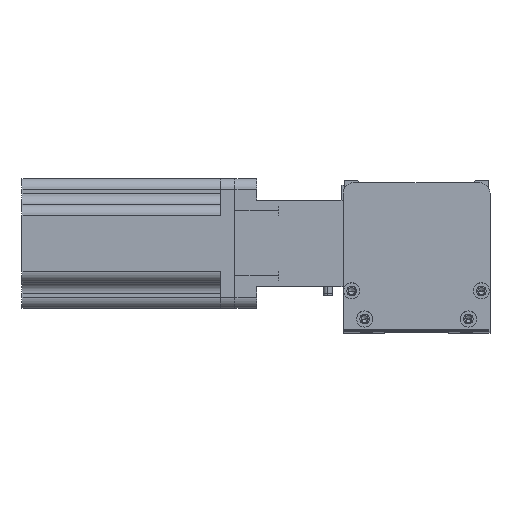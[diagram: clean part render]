
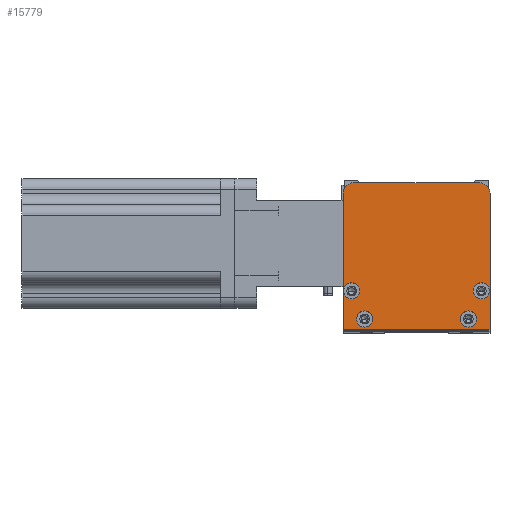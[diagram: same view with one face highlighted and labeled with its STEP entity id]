
A CAD part, top view. The second image highlights one B-rep face of the part: STEP entity #15779.
In plain terms, the highlighted planar face has unit normal (0, 0, 1) as drawn and (0, 0, -1) by its records, which use the part's own axes.
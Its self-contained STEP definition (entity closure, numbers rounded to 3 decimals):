
#298 = VERTEX_POINT ( 'NONE', #5604 ) ;
#424 = EDGE_CURVE ( 'NONE', #23281, #2418, #4229, .T. ) ;
#613 = DIRECTION ( 'NONE',  ( 1., 0., 0. ) ) ;
#666 = ORIENTED_EDGE ( 'NONE', *, *, #17844, .F. ) ;
#1203 = CARTESIAN_POINT ( 'NONE',  ( 58., 5., 0. ) ) ;
#1509 = DIRECTION ( 'NONE',  ( 0., 0., -1. ) ) ;
#1615 = VERTEX_POINT ( 'NONE', #13486 ) ;
#1865 = CARTESIAN_POINT ( 'NONE',  ( 68., 0., 0. ) ) ;
#1935 = CARTESIAN_POINT ( 'NONE',  ( 0., 0., 0. ) ) ;
#2074 = CARTESIAN_POINT ( 'NONE',  ( 67.75, 18., 0. ) ) ;
#2297 = ORIENTED_EDGE ( 'NONE', *, *, #21039, .F. ) ;
#2298 = AXIS2_PLACEMENT_3D ( 'NONE', #21314, #8424, #23518 ) ;
#2418 = VERTEX_POINT ( 'NONE', #18274 ) ;
#2575 = AXIS2_PLACEMENT_3D ( 'NONE', #19404, #6521, #21570 ) ;
#2630 = VECTOR ( 'NONE', #613, 1000. ) ;
#3285 = FACE_BOUND ( 'NONE', #7946, .T. ) ;
#3315 = LINE ( 'NONE', #24185, #2630 ) ;
#3330 = DIRECTION ( 'NONE',  ( -1., 0., 0. ) ) ;
#3374 = VERTEX_POINT ( 'NONE', #2074 ) ;
#3432 = ORIENTED_EDGE ( 'NONE', *, *, #20306, .T. ) ;
#3448 = VECTOR ( 'NONE', #4069, 1000. ) ;
#3655 = CARTESIAN_POINT ( 'NONE',  ( 58., 5., 0. ) ) ;
#3841 = CARTESIAN_POINT ( 'NONE',  ( 68., 0., 0. ) ) ;
#4069 = DIRECTION ( 'NONE',  ( 0., -1., 0. ) ) ;
#4108 = LINE ( 'NONE', #1935, #3448 ) ;
#4157 = DIRECTION ( 'NONE',  ( -1., 0., 0. ) ) ;
#4229 = CIRCLE ( 'NONE', #17617, 3.75 ) ;
#4347 = ORIENTED_EDGE ( 'NONE', *, *, #10404, .F. ) ;
#4366 = VERTEX_POINT ( 'NONE', #8454 ) ;
#4398 = VERTEX_POINT ( 'NONE', #12845 ) ;
#4742 = DIRECTION ( 'NONE',  ( 0., 0., -1. ) ) ;
#4968 = EDGE_CURVE ( 'NONE', #298, #3374, #25805, .T. ) ;
#5204 = CARTESIAN_POINT ( 'NONE',  ( 6.25, 5., 0. ) ) ;
#5533 = ORIENTED_EDGE ( 'NONE', *, *, #18625, .F. ) ;
#5604 = CARTESIAN_POINT ( 'NONE',  ( 60.25, 18., 0. ) ) ;
#5808 = DIRECTION ( 'NONE',  ( -1., 0., 0. ) ) ;
#5854 = CARTESIAN_POINT ( 'NONE',  ( 61.75, 5., 0. ) ) ;
#6292 = CARTESIAN_POINT ( 'NONE',  ( 68., 68., 0. ) ) ;
#6521 = DIRECTION ( 'NONE',  ( 0., 0., -1. ) ) ;
#6577 = CARTESIAN_POINT ( 'NONE',  ( 0., 63., 0. ) ) ;
#6839 = EDGE_CURVE ( 'NONE', #1615, #4366, #10239, .T. ) ;
#6945 = DIRECTION ( 'NONE',  ( 1., 0., 0. ) ) ;
#7417 = AXIS2_PLACEMENT_3D ( 'NONE', #3655, #18692, #5808 ) ;
#7604 = EDGE_CURVE ( 'NONE', #3374, #298, #15531, .T. ) ;
#7748 = CARTESIAN_POINT ( 'NONE',  ( 64., 18., 0. ) ) ;
#7898 = ORIENTED_EDGE ( 'NONE', *, *, #4968, .F. ) ;
#7946 = EDGE_LOOP ( 'NONE', ( #2297, #4347 ) ) ;
#8147 = VERTEX_POINT ( 'NONE', #1865 ) ;
#8326 = CARTESIAN_POINT ( 'NONE',  ( 68., 63., 0. ) ) ;
#8389 = ORIENTED_EDGE ( 'NONE', *, *, #424, .F. ) ;
#8392 = ORIENTED_EDGE ( 'NONE', *, *, #7604, .F. ) ;
#8403 = AXIS2_PLACEMENT_3D ( 'NONE', #14278, #1509, #16428 ) ;
#8424 = DIRECTION ( 'NONE',  ( 0., 0., -1. ) ) ;
#8454 = CARTESIAN_POINT ( 'NONE',  ( 5., 68., 0. ) ) ;
#8695 = CIRCLE ( 'NONE', #2575, 5. ) ;
#8711 = CIRCLE ( 'NONE', #8403, 3.75 ) ;
#8784 = VECTOR ( 'NONE', #21040, 1000. ) ;
#8940 = FACE_BOUND ( 'NONE', #12948, .T. ) ;
#9298 = ORIENTED_EDGE ( 'NONE', *, *, #22085, .F. ) ;
#9366 = VERTEX_POINT ( 'NONE', #9374 ) ;
#9374 = CARTESIAN_POINT ( 'NONE',  ( 7.75, 18., 0. ) ) ;
#9900 = DIRECTION ( 'NONE',  ( -1., 0., 0. ) ) ;
#10049 = EDGE_LOOP ( 'NONE', ( #7898, #8392 ) ) ;
#10098 = EDGE_CURVE ( 'NONE', #23454, #24091, #13387, .T. ) ;
#10239 = LINE ( 'NONE', #6292, #22357 ) ;
#10307 = EDGE_CURVE ( 'NONE', #15660, #4366, #8695, .T. ) ;
#10366 = ORIENTED_EDGE ( 'NONE', *, *, #14053, .F. ) ;
#10404 = EDGE_CURVE ( 'NONE', #9366, #4398, #16731, .T. ) ;
#10416 = CARTESIAN_POINT ( 'NONE',  ( 54.25, 5., 0. ) ) ;
#10940 = EDGE_LOOP ( 'NONE', ( #23523, #25049, #12708, #3432, #5533, #9298 ) ) ;
#11114 = DIRECTION ( 'NONE',  ( 0., 0., -1. ) ) ;
#11684 = DIRECTION ( 'NONE',  ( 0., 0., -1. ) ) ;
#11850 = ORIENTED_EDGE ( 'NONE', *, *, #10098, .F. ) ;
#11871 = CIRCLE ( 'NONE', #12816, 3.75 ) ;
#11953 = EDGE_LOOP ( 'NONE', ( #666, #11850 ) ) ;
#12190 = DIRECTION ( 'NONE',  ( -1., 0., 0. ) ) ;
#12466 = DIRECTION ( 'NONE',  ( 0., 0., -1. ) ) ;
#12708 = ORIENTED_EDGE ( 'NONE', *, *, #6839, .F. ) ;
#12816 = AXIS2_PLACEMENT_3D ( 'NONE', #1203, #16123, #3330 ) ;
#12845 = CARTESIAN_POINT ( 'NONE',  ( 0.25, 18., 0. ) ) ;
#12948 = EDGE_LOOP ( 'NONE', ( #8389, #10366 ) ) ;
#13387 = CIRCLE ( 'NONE', #7417, 3.75 ) ;
#13486 = CARTESIAN_POINT ( 'NONE',  ( 63., 68., 0. ) ) ;
#13972 = FACE_OUTER_BOUND ( 'NONE', #10940, .T. ) ;
#14053 = EDGE_CURVE ( 'NONE', #2418, #23281, #8711, .T. ) ;
#14278 = CARTESIAN_POINT ( 'NONE',  ( 10., 5., 0. ) ) ;
#14316 = CARTESIAN_POINT ( 'NONE',  ( 10., 5., 0. ) ) ;
#15531 = CIRCLE ( 'NONE', #17041, 3.75 ) ;
#15660 = VERTEX_POINT ( 'NONE', #6577 ) ;
#15779 = ADVANCED_FACE ( 'NONE', ( #25482, #3285, #8940, #19742, #13972 ), #19750, .F. ) ;
#16123 = DIRECTION ( 'NONE',  ( 0., 0., -1. ) ) ;
#16428 = DIRECTION ( 'NONE',  ( -1., 0., 0. ) ) ;
#16542 = AXIS2_PLACEMENT_3D ( 'NONE', #17555, #19843, #6945 ) ;
#16731 = CIRCLE ( 'NONE', #16921, 3.75 ) ;
#16921 = AXIS2_PLACEMENT_3D ( 'NONE', #17593, #4742, #19783 ) ;
#17041 = AXIS2_PLACEMENT_3D ( 'NONE', #24646, #11684, #26799 ) ;
#17175 = CARTESIAN_POINT ( 'NONE',  ( 0., 0., 0. ) ) ;
#17555 = CARTESIAN_POINT ( 'NONE',  ( 0., 0., 0. ) ) ;
#17593 = CARTESIAN_POINT ( 'NONE',  ( 4., 18., 0. ) ) ;
#17617 = AXIS2_PLACEMENT_3D ( 'NONE', #14316, #12466, #12190 ) ;
#17844 = EDGE_CURVE ( 'NONE', #24091, #23454, #11871, .T. ) ;
#18274 = CARTESIAN_POINT ( 'NONE',  ( 13.75, 5., 0. ) ) ;
#18625 = EDGE_CURVE ( 'NONE', #8147, #22441, #26678, .T. ) ;
#18692 = DIRECTION ( 'NONE',  ( 0., 0., -1. ) ) ;
#19404 = CARTESIAN_POINT ( 'NONE',  ( 5., 63., 0. ) ) ;
#19558 = AXIS2_PLACEMENT_3D ( 'NONE', #7748, #22812, #9900 ) ;
#19670 = EDGE_CURVE ( 'NONE', #15660, #26646, #4108, .T. ) ;
#19742 = FACE_BOUND ( 'NONE', #11953, .T. ) ;
#19750 = PLANE ( 'NONE',  #16542 ) ;
#19783 = DIRECTION ( 'NONE',  ( -1., 0., 0. ) ) ;
#19843 = DIRECTION ( 'NONE',  ( 0., 0., 1. ) ) ;
#20306 = EDGE_CURVE ( 'NONE', #1615, #22441, #23618, .T. ) ;
#21039 = EDGE_CURVE ( 'NONE', #4398, #9366, #22542, .T. ) ;
#21040 = DIRECTION ( 'NONE',  ( 0., 1., 0. ) ) ;
#21314 = CARTESIAN_POINT ( 'NONE',  ( 63., 63., 0. ) ) ;
#21570 = DIRECTION ( 'NONE',  ( 1., 0., 0. ) ) ;
#22085 = EDGE_CURVE ( 'NONE', #26646, #8147, #3315, .T. ) ;
#22357 = VECTOR ( 'NONE', #4157, 1000. ) ;
#22441 = VERTEX_POINT ( 'NONE', #8326 ) ;
#22542 = CIRCLE ( 'NONE', #25733, 3.75 ) ;
#22812 = DIRECTION ( 'NONE',  ( 0., 0., -1. ) ) ;
#23281 = VERTEX_POINT ( 'NONE', #5204 ) ;
#23454 = VERTEX_POINT ( 'NONE', #5854 ) ;
#23518 = DIRECTION ( 'NONE',  ( 1., 0., 0. ) ) ;
#23523 = ORIENTED_EDGE ( 'NONE', *, *, #19670, .F. ) ;
#23618 = CIRCLE ( 'NONE', #2298, 5. ) ;
#24038 = CARTESIAN_POINT ( 'NONE',  ( 4., 18., 0. ) ) ;
#24091 = VERTEX_POINT ( 'NONE', #10416 ) ;
#24185 = CARTESIAN_POINT ( 'NONE',  ( 68., 0., 0. ) ) ;
#24646 = CARTESIAN_POINT ( 'NONE',  ( 64., 18., 0. ) ) ;
#25049 = ORIENTED_EDGE ( 'NONE', *, *, #10307, .T. ) ;
#25482 = FACE_BOUND ( 'NONE', #10049, .T. ) ;
#25733 = AXIS2_PLACEMENT_3D ( 'NONE', #24038, #11114, #26185 ) ;
#25805 = CIRCLE ( 'NONE', #19558, 3.75 ) ;
#26185 = DIRECTION ( 'NONE',  ( -1., 0., 0. ) ) ;
#26646 = VERTEX_POINT ( 'NONE', #17175 ) ;
#26678 = LINE ( 'NONE', #3841, #8784 ) ;
#26799 = DIRECTION ( 'NONE',  ( -1., 0., 0. ) ) ;
